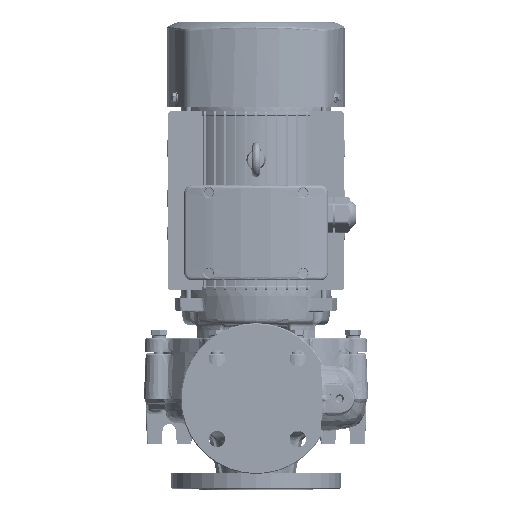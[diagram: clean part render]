
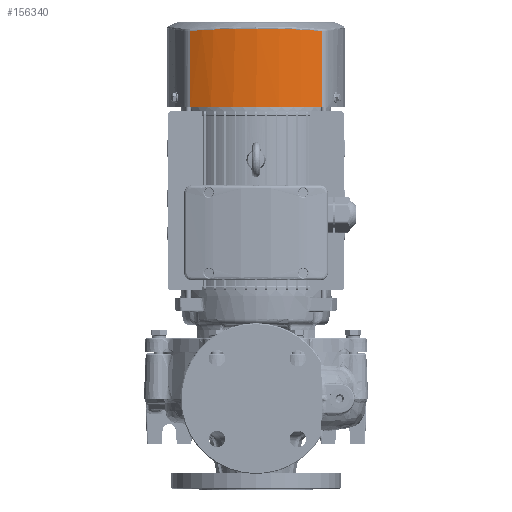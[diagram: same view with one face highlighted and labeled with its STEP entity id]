
A CAD part, front view. The second image highlights one B-rep face of the part: STEP entity #156340.
In plain terms, the highlighted cylindrical face has radius 149 mm (diameter 298 mm), a partial arc.
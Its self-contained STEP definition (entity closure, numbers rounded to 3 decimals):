
#183 = VERTEX_POINT ( 'NONE', #131269 ) ;
#3281 = ORIENTED_EDGE ( 'NONE', *, *, #3507, .T. ) ;
#3507 = EDGE_CURVE ( 'NONE', #71613, #139459, #146668, .T. ) ;
#4716 = LINE ( 'NONE', #14040, #30482 ) ;
#7414 = CARTESIAN_POINT ( 'NONE',  ( -37.338, -93.011, 404.355 ) ) ;
#9896 = CARTESIAN_POINT ( 'NONE',  ( -36.003, -93.351, 404.406 ) ) ;
#13362 = ORIENTED_EDGE ( 'NONE', *, *, #58605, .F. ) ;
#14040 = CARTESIAN_POINT ( 'NONE',  ( -72.169, -79.134, 412.223 ) ) ;
#14076 = DIRECTION ( 'NONE',  ( 0., 0., -1. ) ) ;
#15130 = DIRECTION ( 'NONE',  ( 0., 1., 0. ) ) ;
#19254 = CARTESIAN_POINT ( 'NONE',  ( 72.08, -79.134, 319.223 ) ) ;
#20077 = CARTESIAN_POINT ( 'NONE',  ( -34.644, -93.685, 404.455 ) ) ;
#20905 = CARTESIAN_POINT ( 'NONE',  ( -37.263, -93.03, 404.358 ) ) ;
#21732 = CARTESIAN_POINT ( 'NONE',  ( 24.815, -95.8, 404.772 ) ) ;
#22547 = CARTESIAN_POINT ( 'NONE',  ( -33.479, -93.956, 404.496 ) ) ;
#23381 = CARTESIAN_POINT ( 'NONE',  ( 37.576, -92.926, 404.342 ) ) ;
#26415 = ORIENTED_EDGE ( 'NONE', *, *, #125689, .T. ) ;
#30482 = VECTOR ( 'NONE', #43471, 1000. ) ;
#32742 = CARTESIAN_POINT ( 'NONE',  ( 43.015, -91.404, 404.117 ) ) ;
#35205 = CARTESIAN_POINT ( 'NONE',  ( 72.08, -79.134, 402.365 ) ) ;
#36743 = AXIS2_PLACEMENT_3D ( 'NONE', #91846, #132335, #15130 ) ;
#38533 = LINE ( 'NONE', #141407, #84365 ) ;
#43471 = DIRECTION ( 'NONE',  ( 0., 0., -1. ) ) ;
#45053 = CYLINDRICAL_SURFACE ( 'NONE', #159893, 149. ) ;
#45358 = CARTESIAN_POINT ( 'NONE',  ( -37.021, -93.093, 404.367 ) ) ;
#46186 = CARTESIAN_POINT ( 'NONE',  ( -60.546, -85.061, 403.195 ) ) ;
#47833 = CARTESIAN_POINT ( 'NONE',  ( -12.439, -97.37, 405.011 ) ) ;
#48664 = CARTESIAN_POINT ( 'NONE',  ( 37.89, -92.844, 404.33 ) ) ;
#58562 = FACE_OUTER_BOUND ( 'NONE', #153779, .T. ) ;
#58605 = EDGE_CURVE ( 'NONE', #135578, #183, #160588, .T. ) ;
#58867 = CARTESIAN_POINT ( 'NONE',  ( -72.169, -79.134, 402.365 ) ) ;
#60509 = CARTESIAN_POINT ( 'NONE',  ( 37.308, -92.996, 404.353 ) ) ;
#61339 = CARTESIAN_POINT ( 'NONE',  ( -36.681, -93.179, 404.38 ) ) ;
#71493 = CARTESIAN_POINT ( 'NONE',  ( -37.311, -93.018, 404.356 ) ) ;
#71613 = VERTEX_POINT ( 'NONE', #79972 ) ;
#73964 = CARTESIAN_POINT ( 'NONE',  ( 31.061, -94.611, 404.593 ) ) ;
#74086 = ORIENTED_EDGE ( 'NONE', *, *, #128038, .F. ) ;
#79972 = CARTESIAN_POINT ( 'NONE',  ( 72.08, -79.134, 402.365 ) ) ;
#84142 = CARTESIAN_POINT ( 'NONE',  ( 37.42, -92.967, 404.349 ) ) ;
#84365 = VECTOR ( 'NONE', #14076, 1000. ) ;
#84961 = CARTESIAN_POINT ( 'NONE',  ( 48.806, -89.551, 403.844 ) ) ;
#85494 = CARTESIAN_POINT ( 'NONE',  ( -0.045, 51.246, 412.223 ) ) ;
#85791 = CARTESIAN_POINT ( 'NONE',  ( -43.088, -91.524, 404.134 ) ) ;
#86611 = CARTESIAN_POINT ( 'NONE',  ( 40.853, -92.033, 404.21 ) ) ;
#87433 = CARTESIAN_POINT ( 'NONE',  ( 44.461, -90.96, 404.051 ) ) ;
#91846 = CARTESIAN_POINT ( 'NONE',  ( -0.045, 51.246, 319.223 ) ) ;
#96801 = CARTESIAN_POINT ( 'NONE',  ( -37.19, -93.049, 404.361 ) ) ;
#99287 = CARTESIAN_POINT ( 'NONE',  ( -48.896, -89.657, 403.858 ) ) ;
#109451 = CARTESIAN_POINT ( 'NONE',  ( 37.287, -93.001, 404.354 ) ) ;
#111926 = CARTESIAN_POINT ( 'NONE',  ( 6.117, -97.754, 405.071 ) ) ;
#112756 = CARTESIAN_POINT ( 'NONE',  ( -66.388, -82.332, 402.807 ) ) ;
#122918 = CARTESIAN_POINT ( 'NONE',  ( -6.213, -97.753, 405.071 ) ) ;
#123446 = DIRECTION ( 'NONE',  ( 0., 0., -1. ) ) ;
#124564 = CARTESIAN_POINT ( 'NONE',  ( 60.455, -85.062, 403.195 ) ) ;
#124758 = CARTESIAN_POINT ( 'NONE',  ( -72.169, -79.134, 402.365 ) ) ;
#125398 = CARTESIAN_POINT ( 'NONE',  ( -24.914, -95.698, 404.757 ) ) ;
#125689 = EDGE_CURVE ( 'NONE', #139459, #183, #4716, .T. ) ;
#128038 = EDGE_CURVE ( 'NONE', #71613, #135578, #38533, .T. ) ;
#131269 = CARTESIAN_POINT ( 'NONE',  ( -72.169, -79.134, 319.223 ) ) ;
#132335 = DIRECTION ( 'NONE',  ( 0., 0., -1. ) ) ;
#135578 = VERTEX_POINT ( 'NONE', #19254 ) ;
#135592 = CARTESIAN_POINT ( 'NONE',  ( -21.793, -96.191, 404.832 ) ) ;
#136401 = CARTESIAN_POINT ( 'NONE',  ( -31.146, -94.48, 404.574 ) ) ;
#138057 = CARTESIAN_POINT ( 'NONE',  ( 37.353, -92.984, 404.351 ) ) ;
#138875 = CARTESIAN_POINT ( 'NONE',  ( 51.715, -88.51, 403.692 ) ) ;
#139459 = VERTEX_POINT ( 'NONE', #124758 ) ;
#141407 = CARTESIAN_POINT ( 'NONE',  ( 72.08, -79.134, 412.223 ) ) ;
#146270 = DIRECTION ( 'NONE',  ( 0., 1., 0. ) ) ;
#146668 = B_SPLINE_CURVE_WITH_KNOTS ( 'NONE', 3,
 ( #35205, #149054, #124564, #138875, #84961, #87433, #32742, #86611, #149870, #148238, #48664, #23381, #84142, #138057, #60509, #109451, #73964, #21732, #160866, #111926, #122918, #47833, #135592, #125398, #161698, #136401, #22547, #20077, #9896, #61339, #45358, #96801, #20905, #71493, #7414, #85791, #99287, #46186, #112756, #58867 ),
 .UNSPECIFIED., .F., .F.,
 ( 4, 2, 2, 2, 1, 1, 1, 1, 1, 2, 2, 2, 2, 2, 2, 2, 1, 1, 1, 1, 1, 2, 2, 2, 4 ),
 ( 0., 0.125, 0.187, 0.219, 0.234, 0.242, 0.246, 0.248, 0.249, 0.25, 0.25, 0.375, 0.5, 0.625, 0.687, 0.719, 0.734, 0.742, 0.746, 0.748, 0.749, 0.75, 0.75, 0.875, 1. ),
 .UNSPECIFIED. ) ;
#148238 = CARTESIAN_POINT ( 'NONE',  ( 38.517, -92.678, 404.306 ) ) ;
#149054 = CARTESIAN_POINT ( 'NONE',  ( 66.298, -82.333, 402.808 ) ) ;
#149870 = CARTESIAN_POINT ( 'NONE',  ( 39.774, -92.338, 404.255 ) ) ;
#153779 = EDGE_LOOP ( 'NONE', ( #74086, #3281, #26415, #13362 ) ) ;
#156340 = ADVANCED_FACE ( 'NONE', ( #58562 ), #45053, .T. ) ;
#159893 = AXIS2_PLACEMENT_3D ( 'NONE', #85494, #123446, #146270 ) ;
#160588 = CIRCLE ( 'NONE', #36743, 149. ) ;
#160866 = CARTESIAN_POINT ( 'NONE',  ( 12.343, -97.371, 405.011 ) ) ;
#161698 = CARTESIAN_POINT ( 'NONE',  ( -29.589, -94.804, 404.623 ) ) ;
